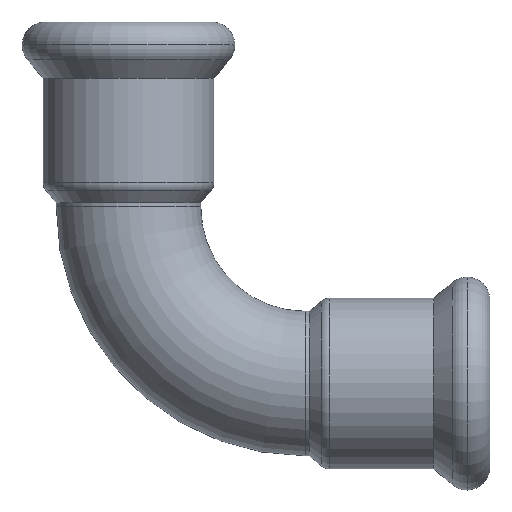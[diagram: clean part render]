
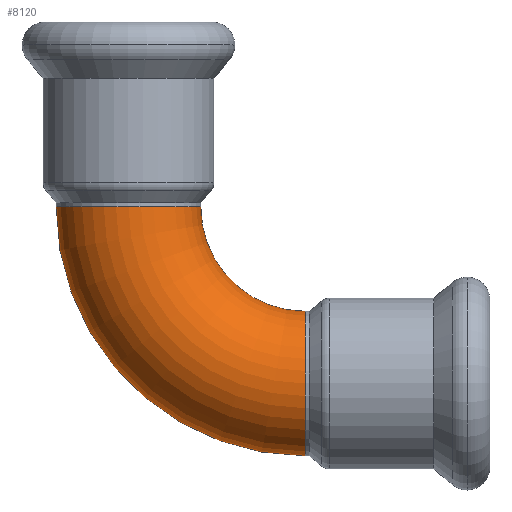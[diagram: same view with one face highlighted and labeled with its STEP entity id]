
A CAD part, top view. The second image highlights one B-rep face of the part: STEP entity #8120.
In plain terms, the highlighted toroidal (fillet/blend) face has major radius 22 mm and minor radius 9 mm.
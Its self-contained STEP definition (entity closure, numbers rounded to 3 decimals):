
#6500=CARTESIAN_POINT('',(-180.976,29.121,0.));
#6510=VERTEX_POINT('',#6500);
#6600=CARTESIAN_POINT('',(-180.976,11.121,
0.));
#6610=VERTEX_POINT('',#6600);
#6640=CARTESIAN_POINT('',(-180.976,20.121,0.));
#6650=DIRECTION('',(1.,0.,0.));
#6660=DIRECTION('',(0.,-1.,0.));
#6670=AXIS2_PLACEMENT_3D('',#6640,#6650,#6660);
#6680=CIRCLE('',#6670,9.);
#6690=CARTESIAN_POINT('',(-180.976,20.121,9.));
#6700=VERTEX_POINT('',#6690);
#6710=EDGE_CURVE('',#6700,#6610,#6680,.T.);
#6730=EDGE_CURVE('',#6510,#6700,#6680,.T.);
#7640=CARTESIAN_POINT('',(-211.976,42.121,0.));
#7650=VERTEX_POINT('',#7640);
#7740=CARTESIAN_POINT('',(-193.976,42.121,
0.));
#7750=VERTEX_POINT('',#7740);
#7780=CARTESIAN_POINT('',(-202.976,42.121,0.));
#7790=DIRECTION('',(0.,-1.,0.));
#7800=DIRECTION('',(-1.,0.,0.));
#7810=AXIS2_PLACEMENT_3D('',#7780,#7790,#7800);
#7820=CIRCLE('',#7810,9.);
#7830=EDGE_CURVE('',#7750,#7650,#7820,.T.);
#7880=CARTESIAN_POINT('',(-180.976,42.121,0.));
#7890=DIRECTION('',(0.,0.,1.));
#7900=DIRECTION('',(-1.,0.,0.));
#7910=AXIS2_PLACEMENT_3D('',#7880,#7890,#7900);
#7920=TOROIDAL_SURFACE('',#7910,22.,9.);
#7930=ORIENTED_EDGE('',*,*,#6710,.F.);
#7940=CARTESIAN_POINT('',(-180.976,42.121,
0.));
#7950=DIRECTION('',(0.,0.,1.));
#7960=DIRECTION('',(-1.,0.,0.));
#7970=AXIS2_PLACEMENT_3D('',#7940,#7950,#7960);
#7980=CIRCLE('',#7970,31.);
#7990=EDGE_CURVE('',#7650,#6610,#7980,.T.);
#8000=ORIENTED_EDGE('',*,*,#7990,.T.);
#8010=ORIENTED_EDGE('',*,*,#7830,.T.);
#8020=CARTESIAN_POINT('',(-180.976,42.121,
0.));
#8030=DIRECTION('',(0.,0.,1.));
#8040=DIRECTION('',(-1.,0.,0.));
#8050=AXIS2_PLACEMENT_3D('',#8020,#8030,#8040);
#8060=CIRCLE('',#8050,13.);
#8070=EDGE_CURVE('',#7750,#6510,#8060,.T.);
#8080=ORIENTED_EDGE('',*,*,#8070,.F.);
#8090=ORIENTED_EDGE('',*,*,#6730,.F.);
#8100=EDGE_LOOP('',(#8090,#8080,#8010,#8000,#7930));
#8110=FACE_OUTER_BOUND('',#8100,.T.);
#8120=ADVANCED_FACE('',(#8110),#7920,.T.);
